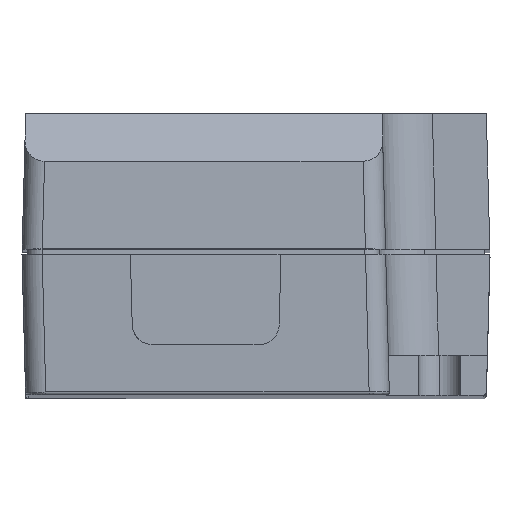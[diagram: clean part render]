
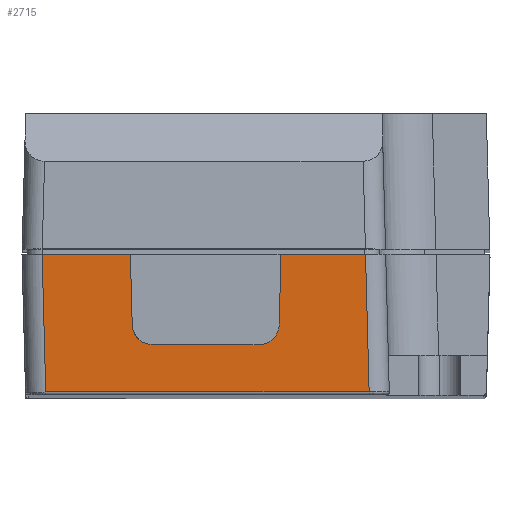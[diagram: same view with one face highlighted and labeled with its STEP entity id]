
A CAD part, top view. The second image highlights one B-rep face of the part: STEP entity #2715.
In plain terms, the highlighted planar face has unit normal (0, -0.026, 1).
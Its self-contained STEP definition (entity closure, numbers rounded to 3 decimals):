
#7 = EDGE_CURVE ( 'NONE', #626, #545, #1944, .T. ) ;
#66 = CARTESIAN_POINT ( 'NONE',  ( -21.901, -13.982, 109.634 ) ) ;
#229 = CARTESIAN_POINT ( 'NONE',  ( 2.301, -7.052, 109.815 ) ) ;
#306 = CARTESIAN_POINT ( 'NONE',  ( 11.062, -6.898, 109.819 ) ) ;
#315 = DIRECTION ( 'NONE',  ( 1., 0., 0. ) ) ;
#329 = CARTESIAN_POINT ( 'NONE',  ( -5.005, 0., 110. ) ) ;
#419 = CARTESIAN_POINT ( 'NONE',  ( -20.892, -13.708, 109.641 ) ) ;
#436 = CARTESIAN_POINT ( 'NONE',  ( -12.271, -8.199, 109.785 ) ) ;
#523 = CARTESIAN_POINT ( 'NONE',  ( 11.24, -13.708, 109.641 ) ) ;
#545 = VERTEX_POINT ( 'NONE', #650 ) ;
#617 = EDGE_CURVE ( 'NONE', #545, #1395, #2683, .T. ) ;
#626 = VERTEX_POINT ( 'NONE', #1434 ) ;
#627 = ORIENTED_EDGE ( 'NONE', *, *, #3240, .T. ) ;
#650 = CARTESIAN_POINT ( 'NONE',  ( -10.302, -9., 109.764 ) ) ;
#664 = ORIENTED_EDGE ( 'NONE', *, *, #7, .F. ) ;
#678 = DIRECTION ( 'NONE',  ( 1., 0., 0. ) ) ;
#749 = EDGE_CURVE ( 'NONE', #1082, #952, #3027, .T. ) ;
#789 = EDGE_CURVE ( 'NONE', #1395, #2599, #2166, .T. ) ;
#796 = DIRECTION ( 'NONE',  ( 0.026, -0.999, -0.026 ) ) ;
#805 = CARTESIAN_POINT ( 'NONE',  ( -12.486, 0., 110. ) ) ;
#812 = PLANE ( 'NONE',  #1723 ) ;
#818 = DIRECTION ( 'NONE',  ( -1., 0., 0. ) ) ;
#928 = ORIENTED_EDGE ( 'NONE', *, *, #749, .T. ) ;
#952 = VERTEX_POINT ( 'NONE', #2211 ) ;
#981 = LINE ( 'NONE', #229, #1725 ) ;
#990 = VECTOR ( 'NONE', #818, 1000. ) ;
#1007 = EDGE_CURVE ( 'NONE', #2599, #3255, #981, .T. ) ;
#1082 = VERTEX_POINT ( 'NONE', #523 ) ;
#1176 = CARTESIAN_POINT ( 'NONE',  ( -21.251, 0., 110. ) ) ;
#1208 = CARTESIAN_POINT ( 'NONE',  ( -12.486, 0., 110. ) ) ;
#1256 = CARTESIAN_POINT ( 'NONE',  ( 2.271, -8.199, 109.785 ) ) ;
#1292 = VECTOR ( 'NONE', #678, 1000. ) ;
#1346 = CARTESIAN_POINT ( 'NONE',  ( 0.302, -9., 109.764 ) ) ;
#1395 = VERTEX_POINT ( 'NONE', #2451 ) ;
#1423 = EDGE_CURVE ( 'NONE', #1651, #626, #3217, .T. ) ;
#1434 = CARTESIAN_POINT ( 'NONE',  ( -12.301, -7.052, 109.815 ) ) ;
#1450 = CARTESIAN_POINT ( 'NONE',  ( -12.301, -7.052, 109.815 ) ) ;
#1514 = LINE ( 'NONE', #2045, #2529 ) ;
#1566 = CARTESIAN_POINT ( 'NONE',  ( 0., 0., 110. ) ) ;
#1623 = ORIENTED_EDGE ( 'NONE', *, *, #789, .F. ) ;
#1651 = VERTEX_POINT ( 'NONE', #805 ) ;
#1701 = CARTESIAN_POINT ( 'NONE',  ( -10.302, -9., 109.764 ) ) ;
#1723 = AXIS2_PLACEMENT_3D ( 'NONE', #66, #1832, #315 ) ;
#1725 = VECTOR ( 'NONE', #2491, 1000. ) ;
#1729 = ORIENTED_EDGE ( 'NONE', *, *, #1007, .F. ) ;
#1814 = DIRECTION ( 'NONE',  ( 1., 0., 0. ) ) ;
#1820 = DIRECTION ( 'NONE',  ( -0.026, 0.999, 0.026 ) ) ;
#1830 = FACE_OUTER_BOUND ( 'NONE', #3109, .T. ) ;
#1832 = DIRECTION ( 'NONE',  ( 0., -0.026, 1. ) ) ;
#1935 = EDGE_CURVE ( 'NONE', #3018, #1082, #1514, .T. ) ;
#1944 =( BOUNDED_CURVE ( )  B_SPLINE_CURVE ( 3, ( #1450, #436, #2437, #1701 ),
 .UNSPECIFIED., .F., .F. ) 
 B_SPLINE_CURVE_WITH_KNOTS ( ( 4, 4 ),
 ( 4.739, 6.283 ),
 .UNSPECIFIED. ) 
 CURVE ( )  GEOMETRIC_REPRESENTATION_ITEM ( )  RATIONAL_B_SPLINE_CURVE ( ( 1., 0.811, 0.811, 1. ) ) 
 REPRESENTATION_ITEM ( '' )  );
#1965 = DIRECTION ( 'NONE',  ( 0.026, -0.999, -0.026 ) ) ;
#1990 = ORIENTED_EDGE ( 'NONE', *, *, #1423, .F. ) ;
#2045 = CARTESIAN_POINT ( 'NONE',  ( -4.826, -13.708, 109.641 ) ) ;
#2082 = DIRECTION ( 'NONE',  ( 1., 0., 0. ) ) ;
#2166 =( BOUNDED_CURVE ( )  B_SPLINE_CURVE ( 3, ( #1346, #2740, #1256, #3011 ),
 .UNSPECIFIED., .F., .T. ) 
 B_SPLINE_CURVE_WITH_KNOTS ( ( 4, 4 ),
 ( 0., 1.545 ),
 .UNSPECIFIED. ) 
 CURVE ( )  GEOMETRIC_REPRESENTATION_ITEM ( )  RATIONAL_B_SPLINE_CURVE ( ( 1., 0.811, 0.811, 1. ) ) 
 REPRESENTATION_ITEM ( '' )  );
#2211 = CARTESIAN_POINT ( 'NONE',  ( 10.881, 0., 110. ) ) ;
#2316 = EDGE_CURVE ( 'NONE', #3008, #3018, #2921, .T. ) ;
#2319 = LINE ( 'NONE', #329, #3004 ) ;
#2324 = CARTESIAN_POINT ( 'NONE',  ( 2.486, 0., 110. ) ) ;
#2437 = CARTESIAN_POINT ( 'NONE',  ( -11.449, -9., 109.764 ) ) ;
#2451 = CARTESIAN_POINT ( 'NONE',  ( 0.302, -9., 109.764 ) ) ;
#2491 = DIRECTION ( 'NONE',  ( 0.026, 0.999, 0.026 ) ) ;
#2529 = VECTOR ( 'NONE', #1814, 1000. ) ;
#2532 = VECTOR ( 'NONE', #1965, 1000. ) ;
#2546 = CARTESIAN_POINT ( 'NONE',  ( -21.071, -6.843, 109.821 ) ) ;
#2599 = VERTEX_POINT ( 'NONE', #3200 ) ;
#2655 = ORIENTED_EDGE ( 'NONE', *, *, #2732, .F. ) ;
#2683 = LINE ( 'NONE', #3187, #1292 ) ;
#2715 = ADVANCED_FACE ( 'NONE', ( #1830 ), #812, .T. ) ;
#2732 = EDGE_CURVE ( 'NONE', #3255, #952, #2319, .T. ) ;
#2740 = CARTESIAN_POINT ( 'NONE',  ( 1.449, -9., 109.764 ) ) ;
#2883 = ORIENTED_EDGE ( 'NONE', *, *, #617, .F. ) ;
#2921 = LINE ( 'NONE', #2546, #3093 ) ;
#2944 = VECTOR ( 'NONE', #1820, 1000. ) ;
#2993 = LINE ( 'NONE', #1566, #990 ) ;
#3004 = VECTOR ( 'NONE', #2082, 1000. ) ;
#3008 = VERTEX_POINT ( 'NONE', #1176 ) ;
#3011 = CARTESIAN_POINT ( 'NONE',  ( 2.301, -7.052, 109.815 ) ) ;
#3018 = VERTEX_POINT ( 'NONE', #419 ) ;
#3027 = LINE ( 'NONE', #306, #2944 ) ;
#3074 = ORIENTED_EDGE ( 'NONE', *, *, #1935, .T. ) ;
#3093 = VECTOR ( 'NONE', #796, 1000. ) ;
#3103 = ORIENTED_EDGE ( 'NONE', *, *, #2316, .T. ) ;
#3109 = EDGE_LOOP ( 'NONE', ( #2655, #1729, #1623, #2883, #664, #1990, #627, #3103, #3074, #928 ) ) ;
#3187 = CARTESIAN_POINT ( 'NONE',  ( -5.005, -9., 109.764 ) ) ;
#3200 = CARTESIAN_POINT ( 'NONE',  ( 2.301, -7.052, 109.815 ) ) ;
#3217 = LINE ( 'NONE', #1208, #2532 ) ;
#3240 = EDGE_CURVE ( 'NONE', #1651, #3008, #2993, .T. ) ;
#3255 = VERTEX_POINT ( 'NONE', #2324 ) ;
